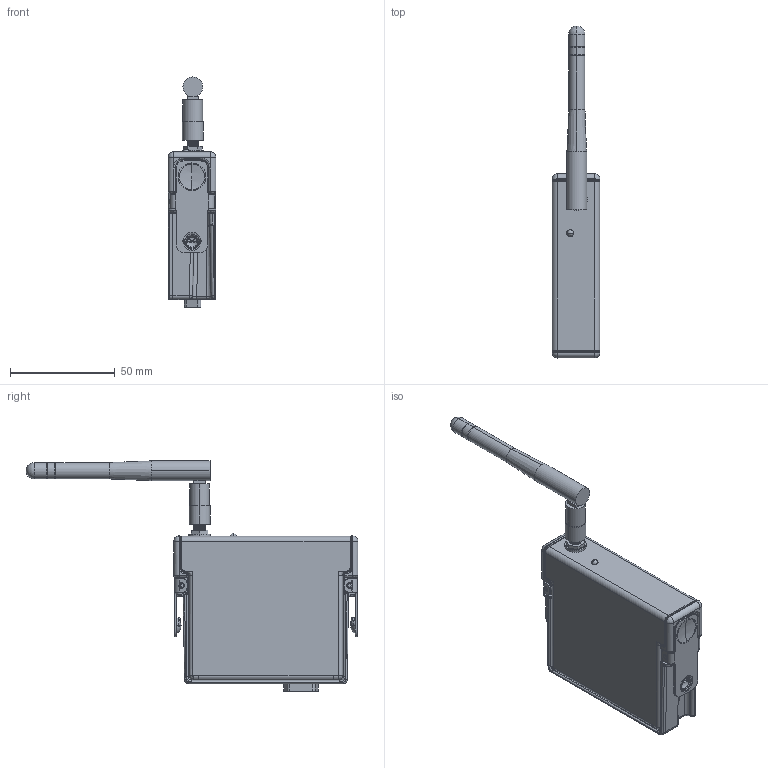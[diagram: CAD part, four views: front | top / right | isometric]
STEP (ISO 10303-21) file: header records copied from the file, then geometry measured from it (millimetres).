
FILE_DESCRIPTION((''),'2;1');
FILE_NAME('CART-CRIO-GATEWAY_ASM','2011-08-24T',('dkendric'),(''),'PRO/ENGINEER BY PARAMETRIC TECHNOLOGY CORPORATION, 2010230','PRO/ENGINEER BY PARAMETRIC TECHNOLOGY CORPORATION, 2010230','');
FILE_SCHEMA(('CONFIG_CONTROL_DESIGN'));
Length unit declared in the file: inch
Products named in the file (19): ENCLOSURE_CART_UDAQ_REV6; LATCH_CONCEPT5_UDAQ; LATCH_REV6_CRIO; ENCLOSURE_CART_UDAQ_REV6_ASM; COVER-CRIO-GATEWAY; COVER-CRIO-GATEWAY_ASM; TL125; FD70; R_2_0603_PKO; CONN_DB15_UDAQ_LOW_PRO; CONN_SMA_MMT_CORP_LONG; LED_RTANG_2R90MM-DIFUSER; CCA_CRIO_GATEWAY_ASM; FLH_PHIL_440X0250_NYLPATCH_SS; WASHER_ANTENNA_SILEX_RADIO; NUT_RPSMA_WIFI_LINK; ANTENNA_WIRELESS_SLEEVE; WASHER_RPSMA_SPACER; CART-CRIO-GATEWAY_ASM
Assembly tree (26 placements, depth 3):
  CART-CRIO-GATEWAY_ASM
    ENCLOSURE_CART_UDAQ_REV6_ASM
      ENCLOSURE_CART_UDAQ_REV6
      LATCH_CONCEPT5_UDAQ
      LATCH_REV6_CRIO  x2
    COVER-CRIO-GATEWAY_ASM
      COVER-CRIO-GATEWAY
    CCA_CRIO_GATEWAY_ASM
      TL125  x4
      FD70  x3
      R_2_0603_PKO  x2
      CONN_DB15_UDAQ_LOW_PRO
      CONN_SMA_MMT_CORP_LONG
      LED_RTANG_2R90MM-DIFUSER
    FLH_PHIL_440X0250_NYLPATCH_SS  x2
    WASHER_ANTENNA_SILEX_RADIO
    NUT_RPSMA_WIFI_LINK
    ANTENNA_WIRELESS_SLEEVE
    WASHER_RPSMA_SPACER
Bounding box: 22.86 x 158.77 x 110.15 mm (x, y, z)
Volume: 43983.5 mm3; surface area: 51741.6 mm2
Topology: 25 solids, 28 shells, 1599 faces, 3922 edges, 2322 vertices
Faces by surface type: cylinder 564, plane 489, bspline 382, torus 66, sphere 49, cone 41, extrusion 8
Entity records: 61939 total; most frequent: CARTESIAN_POINT 30069, ORIENTED_EDGE 6922, DIRECTION 6012, EDGE_CURVE 3466, AXIS2_PLACEMENT_3D 2192, VERTEX_POINT 2115, VECTOR 1628, LINE 1623
